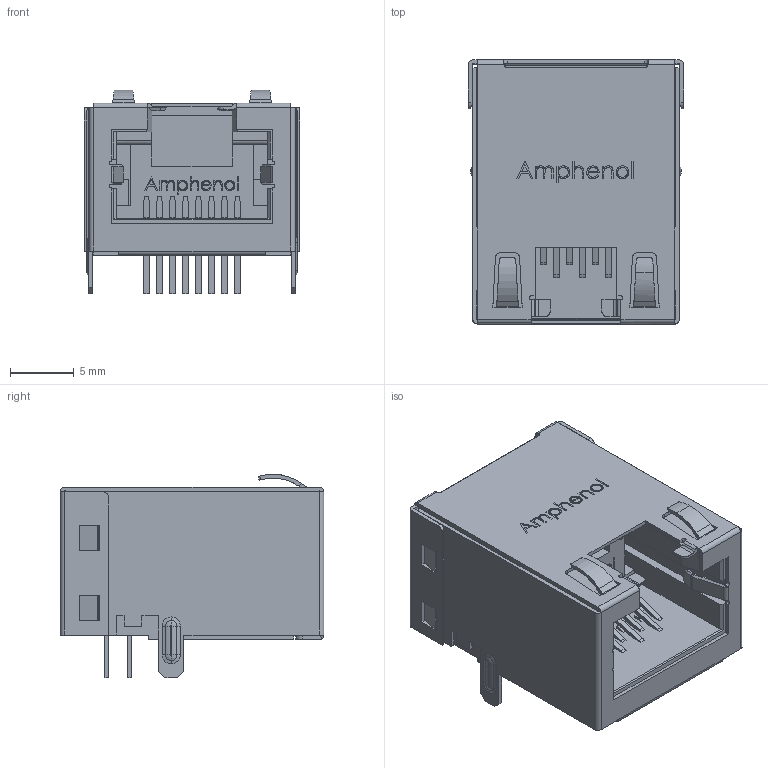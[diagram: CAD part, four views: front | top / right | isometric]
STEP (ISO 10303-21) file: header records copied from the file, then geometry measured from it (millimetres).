
FILE_DESCRIPTION (( 'STEP AP214' ), '1' );
FILE_NAME ('M-RJE49-188-1X01-REVT1.STEP', '2015-09-16T07:09:11', ( '' ), ( '' ), 'SwSTEP 2.0', 'SolidWorks 2014', '' );
FILE_SCHEMA (( 'AUTOMOTIVE_DESIGN' ));
Length unit declared in the file: millimetre
Products named in the file (1): M-RJE49-188-1X01-REVT1
Bounding box: 16.9 x 20.7 x 15.96 mm (x, y, z)
Volume: 2826.2 mm3; surface area: 3768.6 mm2
Topology: 1 solids, 1 shells, 927 faces, 2520 edges, 1631 vertices
Faces by surface type: plane 648, bspline 162, cylinder 105, cone 12
Entity records: 36394 total; most frequent: CARTESIAN_POINT 15201, ORIENTED_EDGE 5040, DIRECTION 3225, EDGE_CURVE 2520, VERTEX_POINT 1631, VECTOR 1599, LINE 1599, EDGE_LOOP 1033
